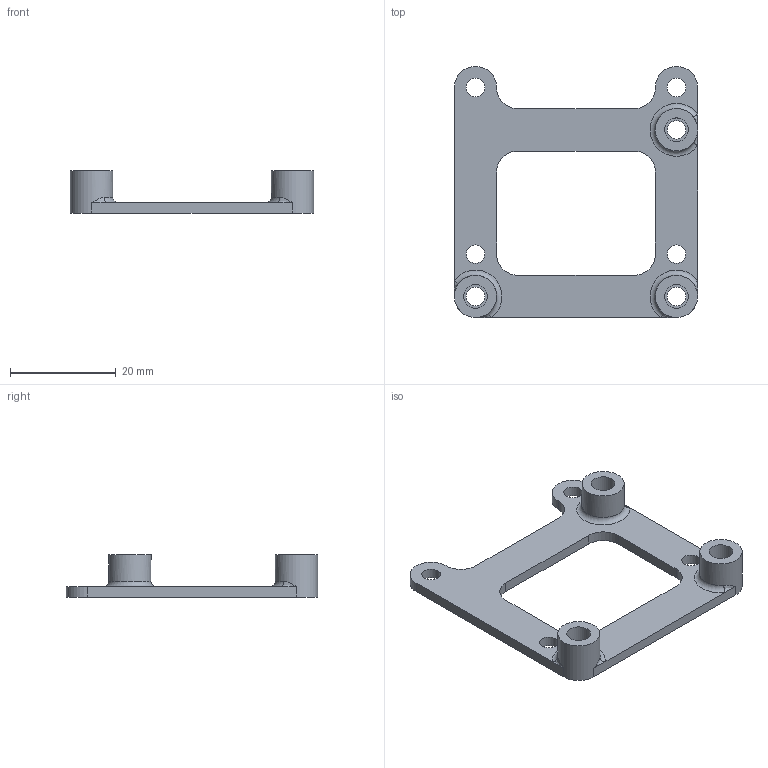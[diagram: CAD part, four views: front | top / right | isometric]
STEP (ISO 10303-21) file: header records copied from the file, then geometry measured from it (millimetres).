
FILE_DESCRIPTION(/* description */ ('Alibre Inc.'),/* implementation_level */ '2;1');
FILE_NAME(/* name */ 'export-E87BBBF6-D48C-4E48-95C6-950BCACE0C4D',/* time_stamp */ '2026-01-22T09:10:26+00:00',/* author */ (''),/* organization */ (''),/* preprocessor_version */ 'ST-DEVELOPER v17',/* originating_system */ 'Alibre',/* authorisation */ '');
FILE_SCHEMA (('CONFIG_CONTROL_DESIGN'));
Length unit declared in the file: millimetre
Bounding box: 46 x 47.5 x 8 mm (x, y, z)
Volume: 2975.8 mm3; surface area: 3762.7 mm2
Topology: 1 solids, 1 shells, 46 faces, 120 edges, 73 vertices
Faces by surface type: cylinder 21, plane 16, bspline 6, torus 3
Full cylindrical faces by diameter (mm): 3.5 x7, 4.5 x3, 8 x3
Entity records: 1829 total; most frequent: CARTESIAN_POINT 701, ORIENTED_EDGE 200, DIRECTION 199, EDGE_CURVE 100, AXIS2_PLACEMENT_3D 90, EDGE_LOOP 78, FACE_BOUND 78, VERTEX_POINT 72
